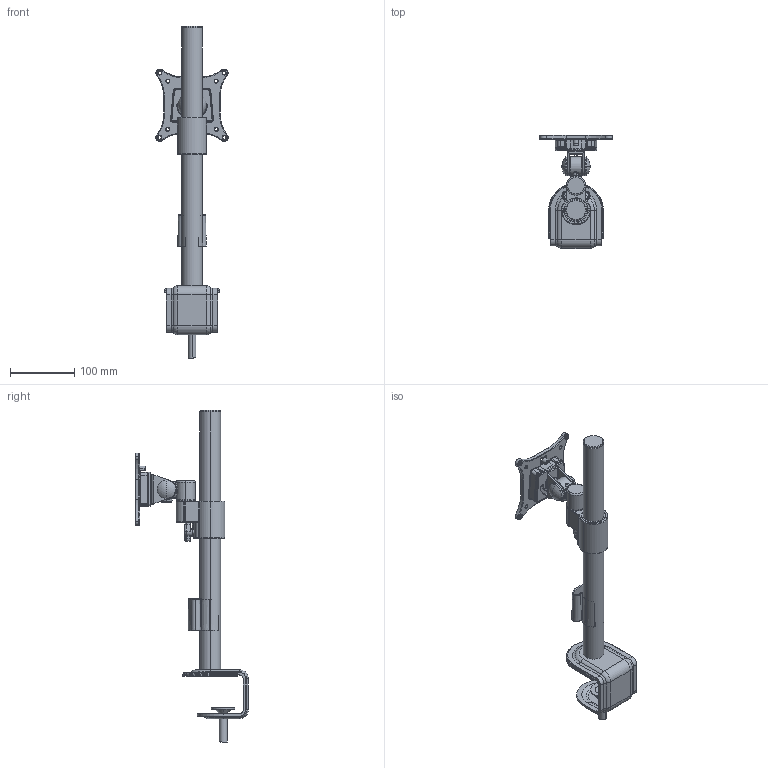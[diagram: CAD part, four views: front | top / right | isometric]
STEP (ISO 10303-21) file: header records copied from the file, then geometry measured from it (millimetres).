
FILE_DESCRIPTION (( 'STEP AP203' ), '1' );
FILE_NAME ('M102.STEP', '2018-05-08T00:41:46', ( '' ), ( '' ), 'SwSTEP 2.0', 'SolidWorks 2014', '' );
FILE_SCHEMA (( 'CONFIG_CONTROL_DESIGN' ));
Length unit declared in the file: millimetre
Products named in the file (1): M102
Bounding box: 112 x 174.7 x 515 mm (x, y, z)
Surface area: 248249.8 mm2 (no closed solid volume)
Topology: 0 solids, 29 shells, 1470 faces, 3557 edges, 2150 vertices
Faces by surface type: cylinder 524, plane 309, torus 299, bspline 199, cone 102, sphere 37
Entity records: 57289 total; most frequent: CARTESIAN_POINT 25403, ORIENTED_EDGE 7040, DIRECTION 6142, EDGE_CURVE 3528, AXIS2_PLACEMENT_3D 2535, VERTEX_POINT 2149, EDGE_LOOP 1571, FACE_OUTER_BOUND 1470
